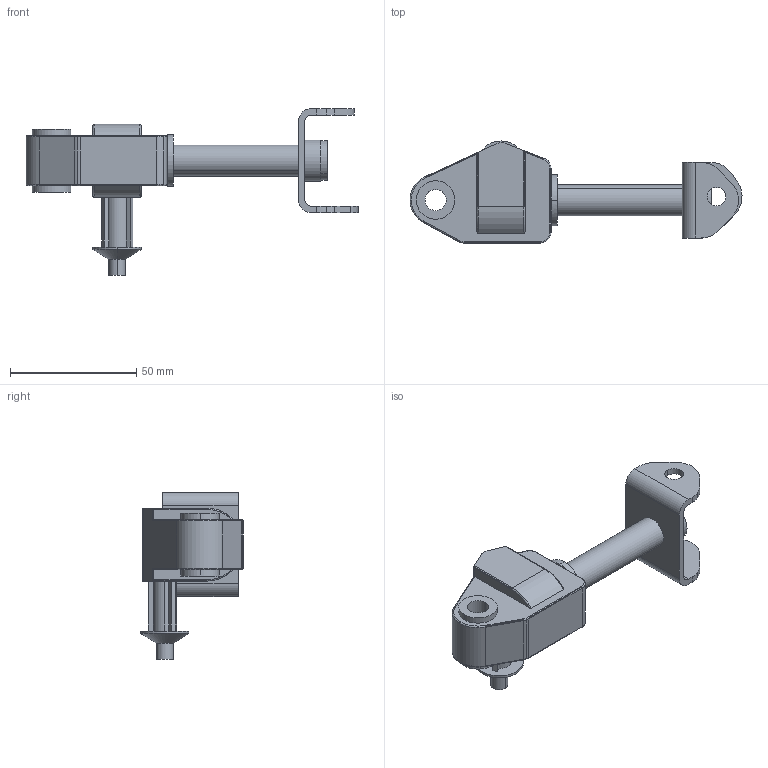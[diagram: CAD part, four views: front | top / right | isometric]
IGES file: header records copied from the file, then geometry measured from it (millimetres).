
Global section: file name: C:\Documents and Settings\Administrator\Desktop\Transfer Temp\actuatorleft.igs; native system: AutoDesk Inventor R2.0 ; preprocessor: AutoDesk Inventor Iges Exporter R2.0; author: No Author specified; organization: No Organization specified; date: 20020121.133950; units: inch
Bounding box: 131.56 x 40.52 x 66.04 mm (x, y, z)
Surface area: 17975.1 mm2 (no closed solid volume)
Topology: 0 solids, 0 shells, 160 faces, 820 edges, 820 vertices
Faces by surface type: revolution 93, bspline 67
